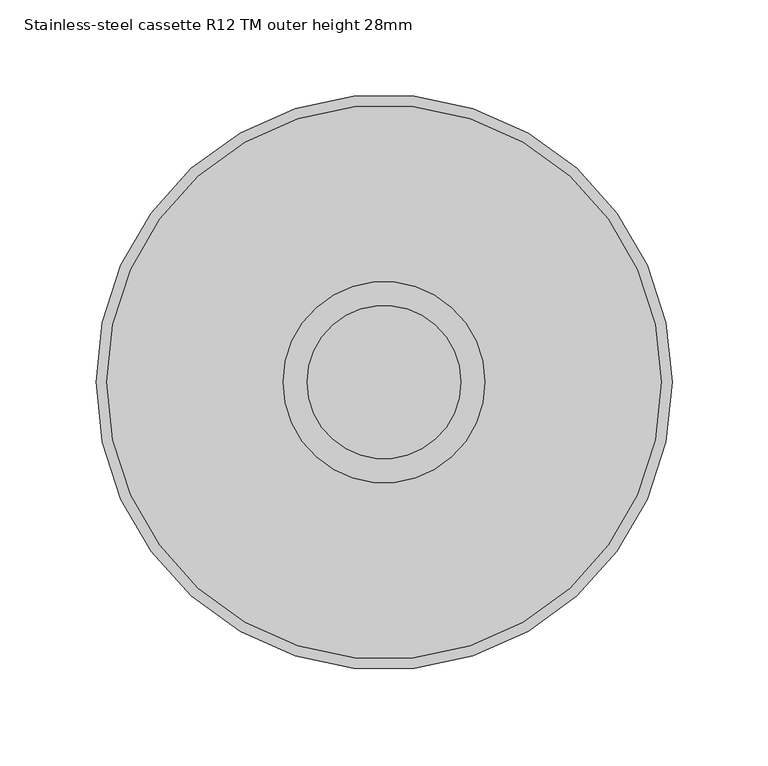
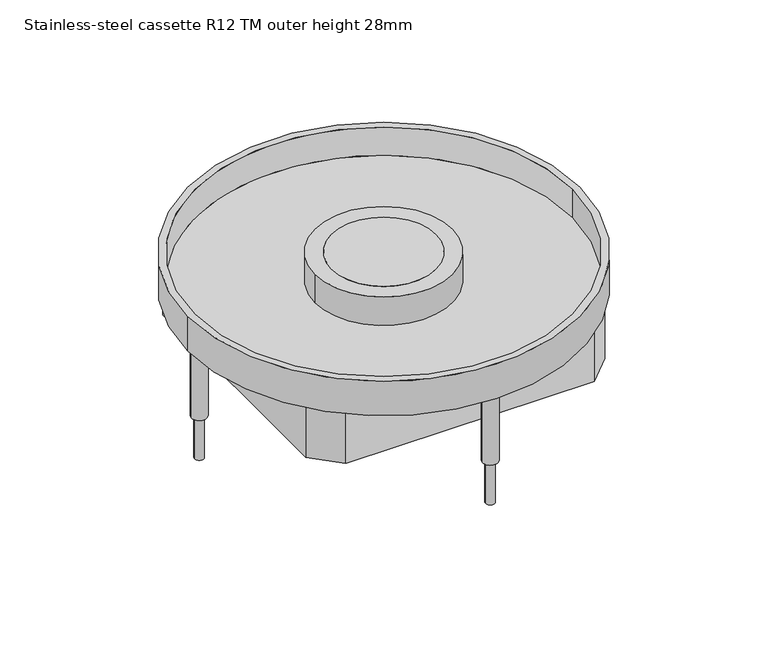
"""IFC4 building model written with IfcOpenShell, lengths in millimetres: proxy geometry, Electrical_Installation_Hager_VE-EE_EKR-Height-adjustable-stainless-steel-cassette-with-tube-mounting-set-round-for-damp-cleaned-floors : Stainless-steel cassette R12 TM outer height 28mm."""

from ifc_helpers import new_model, si_unit, point, frame, frame_2d, origin, origin_with_axes, origin_2d, place, context, project, spatial, polyline, circle_curve, trimmed, segment, composite_curve, outline, extrude, source, transform, mapped, element, save
from ifc_brep_helpers import plane_surface, cylinder_surface, revolved_surface, advanced_brep


def stainless_steel_cassette_r12_tm_outer_height_28mm_5556ff63(model_context):
    return source(origin(), model_context, "Body", "SolidModel", [
        extrude(outline(composite_curve([segment(trimmed(circle_curve(origin_2d(), 40.0), [point((-40.0, 0.0))], [point((40.0, 0.0))], False, "CARTESIAN"), True, "CONTINUOUS"), segment(trimmed(circle_curve(origin_2d(), 40.0), [point((40.0, 0.0))], [point((-40.0, 0.0))], False, "CARTESIAN"), True, "CONTINUOUS")], self_intersect=False)), origin_with_axes(), (0.0, 0.0, 1.0), 2.011943),
        advanced_brep(
        [(-52.5, 0.0, 2.011943), (52.5, 0.0, 2.011943), (-40.0, 0.0, 2.011943), (40.0, 0.0, 2.011943), (-52.5, 0.0, -20.988057), (52.5, 0.0, -20.988057), (-40.0, 0.0, -20.988057), (40.0, 0.0, -20.988057), (-52.5, 0.0, 0.0), (52.5, 0.0, 0.0), (-40.0, 0.0, 0.0), (40.0, 0.0, 0.0)],
        [
            (0, 1, circle_curve(frame((0.0, 0.0, 2.011943), z_axis=(0.0, 0.0, 1.0), x_axis=(1.0, 0.0, 0.0)), 52.5)),
            (1, 0, circle_curve(frame((0.0, 0.0, 2.011943), z_axis=(0.0, 0.0, 1.0), x_axis=(1.0, 0.0, 0.0)), 52.5)),
            (2, 3, circle_curve(frame((0.0, 0.0, 2.011943), z_axis=(0.0, 0.0, -1.0), x_axis=(1.0, 0.0, 0.0)), 40.0)),
            (3, 2, circle_curve(frame((0.0, 0.0, 2.011943), z_axis=(0.0, 0.0, -1.0), x_axis=(1.0, 0.0, 0.0)), 40.0)),
            (4, 5, circle_curve(frame((0.0, 0.0, -20.988057), z_axis=(0.0, 0.0, -1.0), x_axis=(1.0, 0.0, 0.0)), 52.5)),
            (5, 4, circle_curve(frame((0.0, 0.0, -20.988057), z_axis=(0.0, 0.0, -1.0), x_axis=(1.0, 0.0, 0.0)), 52.5)),
            (6, 7, circle_curve(frame((0.0, 0.0, -20.988057), z_axis=(0.0, 0.0, 1.0), x_axis=(1.0, 0.0, 0.0)), 40.0)),
            (7, 6, circle_curve(frame((0.0, 0.0, -20.988057), z_axis=(0.0, 0.0, 1.0), x_axis=(1.0, 0.0, 0.0)), 40.0)),
            (0, 8),
            (8, 4),
            (5, 9),
            (9, 1),
            (2, 10),
            (10, 6),
            (7, 11),
            (11, 3),
        ],
        [
            plane_surface(frame((52.5, 0.0, 2.011943), z_axis=(0.0, 0.0, 1.0), x_axis=(0.0, 1.0, 0.0))),
            plane_surface(frame((52.5, 0.0, -20.988057), z_axis=(0.0, 0.0, -1.0), x_axis=(0.0, -1.0, 0.0))),
            cylinder_surface(frame((0.0, 0.0, -20.988057), z_axis=(0.0, 0.0, 1.0), x_axis=(1.0, 0.0, 0.0)), 52.5),
            revolved_surface(polyline([(40.0, 0.0, -20.988057), (40.0, 0.0, 2.011943)]), (0.0, 0.0, 0.0), (0.0, 0.0, -1.0)),
        ],
        [
            (0, [[1, 2], [3, 4]]),
            (1, [[5, 6], [7, 8]]),
            (2, [[-1, 9, 10, -6, 11, 12]]),
            (2, [[-2, -12, -11, -5, -10, -9]]),
            (3, [[-3, 13, 14, -8, 15, 16]]),
            (3, [[-4, -16, -15, -7, -14, -13]]),
        ],
    ),
        extrude(outline(composite_curve([segment(trimmed(circle_curve(frame_2d((-141.3, 0.0)), 3.5), [point((-144.8, 0.0))], [point((-137.8, 0.0))], False, "CARTESIAN"), True, "CONTINUOUS"), segment(trimmed(circle_curve(frame_2d((-141.3, 0.0)), 3.5), [point((-137.8, 0.0))], [point((-144.8, 0.0))], False, "CARTESIAN"), True, "CONTINUOUS")], self_intersect=False)), frame((0.0, 0.0, -115.0), z_axis=(0.0, 0.0, 1.0), x_axis=(1.0, 0.0, 0.0)), (0.0, 0.0, 1.0), 89.011943),
        extrude(outline(composite_curve([segment(trimmed(circle_curve(frame_2d((0.0, 141.3)), 3.5), [point((-3.5, 141.3))], [point((3.5, 141.3))], False, "CARTESIAN"), True, "CONTINUOUS"), segment(trimmed(circle_curve(frame_2d((0.0, 141.3)), 3.5), [point((3.5, 141.3))], [point((-3.5, 141.3))], False, "CARTESIAN"), True, "CONTINUOUS")], self_intersect=False)), frame((0.0, 0.0, -115.0), z_axis=(0.0, 0.0, 1.0), x_axis=(1.0, 0.0, 0.0)), (0.0, 0.0, 1.0), 89.011943),
        extrude(outline(composite_curve([segment(trimmed(circle_curve(frame_2d((141.3, 0.0)), 3.548869), [point((137.751131, 0.0))], [point((144.848869, 0.0))], False, "CARTESIAN"), True, "CONTINUOUS"), segment(trimmed(circle_curve(frame_2d((141.3, 0.0)), 3.548869), [point((144.848869, 0.0))], [point((137.751131, 0.0))], False, "CARTESIAN"), True, "CONTINUOUS")], self_intersect=False)), frame((0.0, 0.0, -115.0), z_axis=(0.0, 0.0, 1.0), x_axis=(1.0, 0.0, 0.0)), (0.0, 0.0, 1.0), 89.011943),
        extrude(outline(composite_curve([segment(trimmed(circle_curve(frame_2d((0.0, -141.3)), 3.5), [point((-3.5, -141.3))], [point((3.5, -141.3))], False, "CARTESIAN"), True, "CONTINUOUS"), segment(trimmed(circle_curve(frame_2d((0.0, -141.3)), 3.5), [point((3.5, -141.3))], [point((-3.5, -141.3))], False, "CARTESIAN"), True, "CONTINUOUS")], self_intersect=False)), frame((0.0, 0.0, -115.0), z_axis=(0.0, 0.0, 1.0), x_axis=(1.0, 0.0, 0.0)), (0.0, 0.0, 1.0), 89.011943),
        advanced_brep(
        [(144.5, 0.0, -20.988057), (-144.5, 0.0, -20.988057), (-40.0, 0.0, -20.988057), (40.0, 0.0, -20.988057), (-150.0, 0.0, -25.988057), (150.0, 0.0, -25.988057), (-40.0, 0.0, -25.988057), (40.0, 0.0, -25.988057), (-150.0, 0.0, 2.011943), (150.0, 0.0, 2.011943), (-144.5, 0.0, 2.011943), (144.5, 0.0, 2.011943)],
        [
            (0, 1, circle_curve(frame((0.0, 0.0, -20.988057), z_axis=(0.0, 0.0, 1.0), x_axis=(1.0, 0.0, 0.0)), 144.5)),
            (1, 0, circle_curve(frame((0.0, 0.0, -20.988057), z_axis=(0.0, 0.0, 1.0), x_axis=(1.0, 0.0, 0.0)), 144.5)),
            (2, 3, circle_curve(frame((0.0, 0.0, -20.988057), z_axis=(0.0, 0.0, -1.0), x_axis=(1.0, 0.0, 0.0)), 40.0)),
            (3, 2, circle_curve(frame((0.0, 0.0, -20.988057), z_axis=(0.0, 0.0, -1.0), x_axis=(1.0, 0.0, 0.0)), 40.0)),
            (4, 5, circle_curve(frame((0.0, 0.0, -25.988057), z_axis=(0.0, 0.0, -1.0), x_axis=(1.0, 0.0, 0.0)), 150.0)),
            (5, 4, circle_curve(frame((0.0, 0.0, -25.988057), z_axis=(0.0, 0.0, -1.0), x_axis=(1.0, 0.0, 0.0)), 150.0)),
            (6, 7, circle_curve(frame((0.0, 0.0, -25.988057), z_axis=(0.0, 0.0, 1.0), x_axis=(1.0, 0.0, 0.0)), 40.0)),
            (7, 6, circle_curve(frame((0.0, 0.0, -25.988057), z_axis=(0.0, 0.0, 1.0), x_axis=(1.0, 0.0, 0.0)), 40.0)),
            (8, 9, circle_curve(frame((0.0, 0.0, 2.011943), z_axis=(0.0, 0.0, 1.0), x_axis=(1.0, 0.0, 0.0)), 150.0)),
            (9, 8, circle_curve(frame((0.0, 0.0, 2.011943), z_axis=(0.0, 0.0, 1.0), x_axis=(1.0, 0.0, 0.0)), 150.0)),
            (10, 11, circle_curve(frame((0.0, 0.0, 2.011943), z_axis=(0.0, 0.0, -1.0), x_axis=(1.0, 0.0, 0.0)), 144.5)),
            (11, 10, circle_curve(frame((0.0, 0.0, 2.011943), z_axis=(0.0, 0.0, -1.0), x_axis=(1.0, 0.0, 0.0)), 144.5)),
            (8, 4),
            (5, 9),
            (10, 1),
            (0, 11),
            (2, 6),
            (7, 3),
        ],
        [
            plane_surface(frame((144.5, 0.0, -20.988057), z_axis=(0.0, 0.0, 1.0), x_axis=(0.0, 1.0, 0.0))),
            plane_surface(frame((144.5, 0.0, -25.988057), z_axis=(0.0, 0.0, -1.0), x_axis=(0.0, -1.0, 0.0))),
            plane_surface(frame((150.0, 0.0, 2.011943), z_axis=(0.0, 0.0, 1.0), x_axis=(0.0, 1.0, 0.0))),
            cylinder_surface(frame((0.0, 0.0, -25.988057), z_axis=(0.0, 0.0, 1.0), x_axis=(1.0, 0.0, 0.0)), 150.0),
            revolved_surface(polyline([(144.5, 0.0, -20.988057), (144.5, 0.0, 2.011943)]), (0.0, 0.0, 0.0), (0.0, 0.0, -1.0)),
            revolved_surface(polyline([(40.0, 0.0, -25.988057), (40.0, 0.0, -20.988057)]), (0.0, 0.0, 0.0), (0.0, 0.0, -1.0)),
        ],
        [
            (0, [[1, 2], [3, 4]]),
            (1, [[5, 6], [7, 8]]),
            (2, [[9, 10], [11, 12]]),
            (3, [[-9, 13, -6, 14]]),
            (3, [[-10, -14, -5, -13]]),
            (4, [[-11, 15, -1, 16]]),
            (4, [[-12, -16, -2, -15]]),
            (5, [[-3, 17, -8, 18]]),
            (5, [[-4, -18, -7, -17]]),
        ],
    ),
        extrude(outline(polyline([(94.9818914, 114.5), (114.5, 94.9818914), (114.5, -94.9818914), (94.9818914, -114.5), (-94.9818914, -114.5), (-114.5, -94.9818914), (-114.5, 94.9818914), (-94.9818914, 114.5), (94.9818914, 114.5)]), holes=[polyline([(-111.5, 93.8602374), (-111.5, -93.8602374), (-93.8602374, -111.5), (93.8602374, -111.5), (111.5, -93.8602374), (111.5, 93.8602374), (93.8602374, 111.5), (-93.8602374, 111.5), (-111.5, 93.8602374)])]), frame((0.0, 0.0, -66.9256945), z_axis=(0.0, 0.0, 1.0), x_axis=(1.0, 0.0, 0.0)), (0.0, 0.0, 1.0), 40.9376375),
        extrude(outline(composite_curve([segment(trimmed(circle_curve(frame_2d((0.0, 141.3)), 5.9738904), [point((-5.9738904, 141.3))], [point((5.9738904, 141.3))], False, "CARTESIAN"), True, "CONTINUOUS"), segment(trimmed(circle_curve(frame_2d((0.0, 141.3)), 5.9738904), [point((5.9738904, 141.3))], [point((-5.9738904, 141.3))], False, "CARTESIAN"), True, "CONTINUOUS")], self_intersect=False)), frame((0.0, 0.0, -81.0371838), z_axis=(0.0, 0.0, 1.0), x_axis=(1.0, 0.0, 0.0)), (0.0, 0.0, 1.0), 55.0491267),
        extrude(outline(composite_curve([segment(trimmed(circle_curve(frame_2d((141.3, 0.0)), 6.0), [point((135.3, 0.0))], [point((147.3, 0.0))], False, "CARTESIAN"), True, "CONTINUOUS"), segment(trimmed(circle_curve(frame_2d((141.3, 0.0)), 6.0), [point((147.3, 0.0))], [point((135.3, 0.0))], False, "CARTESIAN"), True, "CONTINUOUS")], self_intersect=False)), frame((0.0, 0.0, -81.0371838), z_axis=(0.0, 0.0, 1.0), x_axis=(1.0, 0.0, 0.0)), (0.0, 0.0, 1.0), 55.0491267),
        extrude(outline(composite_curve([segment(trimmed(circle_curve(frame_2d((0.0, -141.3)), 6.0), [point((-6.0, -141.3))], [point((6.0, -141.3))], False, "CARTESIAN"), True, "CONTINUOUS"), segment(trimmed(circle_curve(frame_2d((0.0, -141.3)), 6.0), [point((6.0, -141.3))], [point((-6.0, -141.3))], False, "CARTESIAN"), True, "CONTINUOUS")], self_intersect=False)), frame((0.0, 0.0, -81.0371838), z_axis=(0.0, 0.0, 1.0), x_axis=(1.0, 0.0, 0.0)), (0.0, 0.0, 1.0), 55.0491267),
        extrude(outline(composite_curve([segment(trimmed(circle_curve(frame_2d((-141.3, 0.0)), 6.0), [point((-147.3, 0.0))], [point((-135.3, 0.0))], False, "CARTESIAN"), True, "CONTINUOUS"), segment(trimmed(circle_curve(frame_2d((-141.3, 0.0)), 6.0), [point((-135.3, 0.0))], [point((-147.3, 0.0))], False, "CARTESIAN"), True, "CONTINUOUS")], self_intersect=False)), frame((0.0, 0.0, -81.0371838), z_axis=(0.0, 0.0, 1.0), x_axis=(1.0, 0.0, 0.0)), (0.0, 0.0, 1.0), 55.0491267),
    ])


if __name__ == "__main__":
    model = new_model("IFC4")
    model_context = context("Model", 3, world=origin())
    ifc_project = project(units=[si_unit("LENGTHUNIT", "METRE", prefix="MILLI")], contexts=[model_context])
    site = spatial("IfcSite", under=ifc_project)
    building = spatial("IfcBuilding", under=site)
    placement = place(None, origin())
    stainless_steel_cassette_r12_tm_outer_height_28mm_shape = stainless_steel_cassette_r12_tm_outer_height_28mm_5556ff63(model_context)
    element("IfcBuildingElementProxy", 1, Name="Electrical_Installation_Hager_VE-EE_EKR-Height-adjustable-stainless-steel-cassette-with-tube-mounting-set-round-for-damp-cleaned-floors : Stainless-steel cassette R12 TM outer height 28mm", ObjectType="Electrical_Installation_Hager_VE-EE_EKR-Height-adjustable-stainless-steel-cassette-with-tube-mounting-set-round-for-damp-cleaned-floors : Stainless-steel cassette R12 TM outer height 28mm", at=placement, inside=building, context=model_context, shape_type="MappedRepresentation", body=[
        mapped(stainless_steel_cassette_r12_tm_outer_height_28mm_shape, transform((0.0, 0.0, 0.0), x_axis=(1.0, 0.0, 0.0), y_axis=(0.0, 1.0, 0.0), z_axis=(0.0, 0.0, 1.0))),
    ])
    save(model, "model.ifc")
